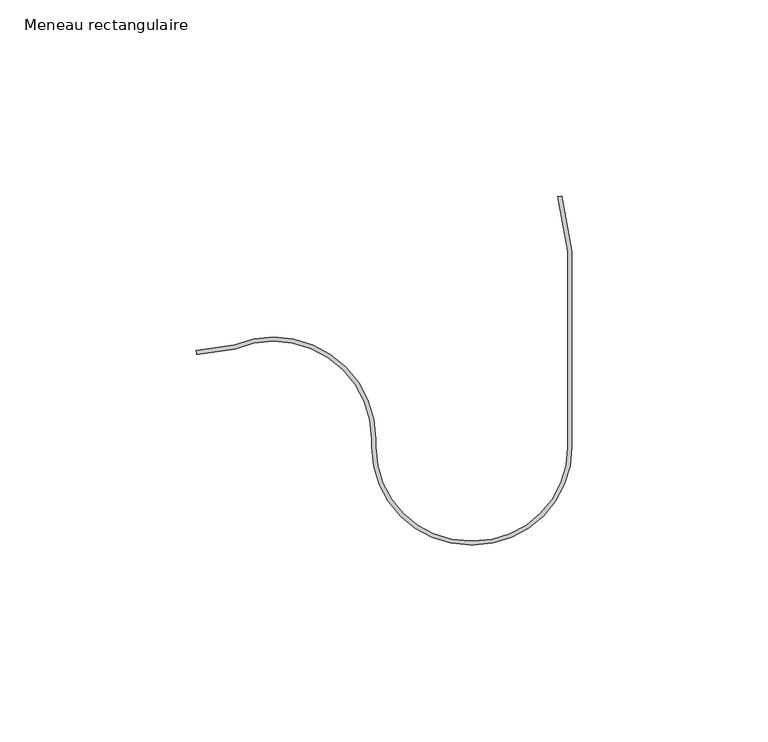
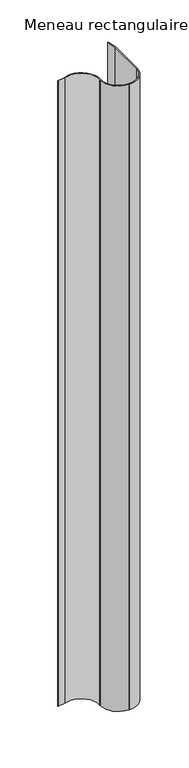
"""IFC4 building model written with IfcOpenShell, lengths in millimetres: member geometry, Meneau rectangulaire : Jonction contre mur Droite V."""

from ifc_helpers import new_model, si_unit, point, frame, frame_2d, origin, place, context, project, spatial, polyline, circle_curve, trimmed, segment, composite_curve, outline, extrude, source, transform, mapped, element, save


def meneau_rectangulaire_9e9f001b(model_context):
    return source(origin(), model_context, "Body", "SweptSolid", [
        extrude(outline(composite_curve([segment(polyline([(-1.0, 26.3569132), (-3.6043568, 40.2231847), (-2.6384309, 40.4046045), (0.0, 26.3569132), (0.0, -23.6430868)]), True, "CONTINUOUS"), segment(trimmed(circle_curve(frame_2d((-25.0, -23.6430868)), 25.0), [point((0.0, -23.6430868))], [point((-25.0, -48.6430868))], False, "CARTESIAN"), True, "CONTINUOUS"), segment(polyline([(-25.0, -48.6430868), (-26.0, -48.6430868)]), True, "CONTINUOUS"), segment(trimmed(circle_curve(frame_2d((-26.0, -23.6430868)), 25.0), [point((-26.0, -48.6430868))], [point((-51.0, -23.6430868))], False, "CARTESIAN"), True, "CONTINUOUS"), segment(polyline([(-51.0, -23.6430868), (-51.0, -21.6218737)]), True, "CONTINUOUS"), segment(trimmed(circle_curve(frame_2d((-76.0, -21.6218737)), 25.0), [point((-51.0, -21.6218737))], [point((-85.7659612, 1.391731))], True, "CARTESIAN"), True, "CONTINUOUS"), segment(polyline([(-85.7659612, 1.391731), (-95.6686418, 0.0), (-95.8078149, 0.9902681), (-86.0341553, 2.3638663)]), True, "CONTINUOUS"), segment(trimmed(circle_curve(frame_2d((-76.0, -21.6218737)), 26.0), [point((-86.0341553, 2.3638663))], [point((-50.0, -21.6218737))], False, "CARTESIAN"), True, "CONTINUOUS"), segment(polyline([(-50.0, -21.6218737), (-50.0, -23.6430868)]), True, "CONTINUOUS"), segment(trimmed(circle_curve(frame_2d((-26.0, -23.6430868)), 24.0), [point((-50.0, -23.6430868))], [point((-26.0, -47.6430868))], True, "CARTESIAN"), True, "CONTINUOUS"), segment(polyline([(-26.0, -47.6430868), (-25.0, -47.6430868)]), True, "CONTINUOUS"), segment(trimmed(circle_curve(frame_2d((-25.0, -23.6430868)), 24.0), [point((-25.0, -47.6430868))], [point((-1.0, -23.6430868))], True, "CARTESIAN"), True, "CONTINUOUS"), segment(polyline([(-1.0, -23.6430868), (-1.0, 26.3569132)]), True, "CONTINUOUS")], self_intersect=False)), frame((0.0, 0.0, -920.0), z_axis=(0.0, 0.0, 1.0), x_axis=(1.0, 0.0, 0.0)), (0.0, 0.0, 1.0), 920.0),
    ])


if __name__ == "__main__":
    model = new_model("IFC4")
    model_context = context("Model", 3, world=origin())
    ifc_project = project(units=[si_unit("LENGTHUNIT", "METRE", prefix="MILLI")], contexts=[model_context])
    site = spatial("IfcSite", under=ifc_project)
    building = spatial("IfcBuilding", under=site)
    placement = place(None, origin())
    meneau_rectangulaire_shape = meneau_rectangulaire_9e9f001b(model_context)
    element("IfcMember", 1, ObjectType="Meneau rectangulaire : Jonction contre mur Droite V", at=placement, inside=building, context=model_context, shape_type="MappedRepresentation", body=[
        mapped(meneau_rectangulaire_shape, transform((0.0, 0.0, 0.0), x_axis=(1.0, 0.0, 0.0), y_axis=(0.0, 1.0, 0.0), z_axis=(0.0, 0.0, 1.0))),
    ])
    save(model, "model.ifc")
